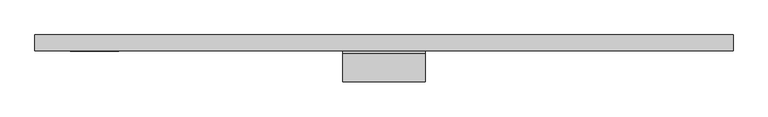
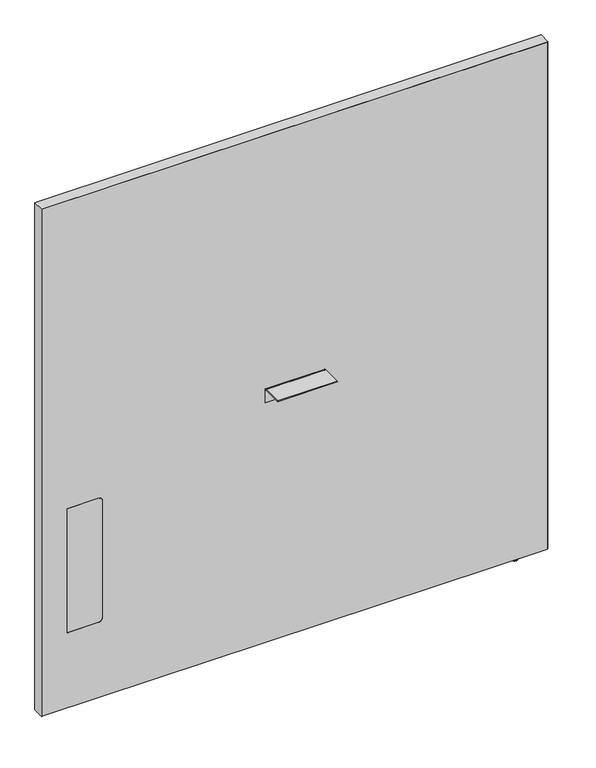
"""IFC4 building model written with IfcOpenShell, lengths in millimetres: furniture geometry, Steelcase - Answer Solution - Boundary Screen - Straight - Single Sided : 54H x 51W."""

import ifcopenshell
import ifcopenshell.guid

model = None  # the IFC model being written
_history = None  # IfcOwnerHistory: only IFC2X3 demands one
_inside = {}  # id of a spatial element -> (the spatial element, [elements in it])
_under = {}  # id of a project, library or spatial element -> (it, [spatial elements below it])
_declared = {}  # id of a project -> (the project, [libraries it declares])
_typed = {}  # id of a type object -> (the type object, [elements of that type])
_made_of = {}  # id of a material, layer set ... -> (it, [elements and type objects made of it])


def new_model(schema):
    """Start an empty IFC model of exactly this schema.

    Asked for "IFC4X3", IfcOpenShell would pick the latest addendum, in which some entities
    have other attributes; the version numbers below select the first issue.
    IFC2X3 requires an IfcOwnerHistory on every rooted entity: one is made here for all.
    """
    global model, _history
    if schema == "IFC4X3":
        model = ifcopenshell.file(schema_version=(4, 3, 0, 0))
    else:
        model = ifcopenshell.file(schema=schema)
    _inside.clear()
    _under.clear()
    _declared.clear()
    _typed.clear()
    _made_of.clear()
    _history = None
    if model.schema == "IFC2X3":
        org = make("IfcOrganization", Name="unknown")
        user = make(
            "IfcPersonAndOrganization",
            ThePerson=make("IfcPerson", FamilyName="unknown"),
            TheOrganization=org,
        )
        app = make(
            "IfcApplication",
            ApplicationDeveloper=org,
            Version="unknown",
            ApplicationFullName="unknown",
            ApplicationIdentifier="unknown",
        )
        _history = make(
            "IfcOwnerHistory",
            OwningUser=user,
            OwningApplication=app,
            ChangeAction="ADDED",
            CreationDate=0,
        )
    return model


def make(cls, **values):
    """One entity of the class cls with the attributes given. An attribute that is None is left unset."""
    return model.create_entity(
        cls, **{name: value for name, value in values.items() if value is not None}
    )


def rooted(cls, **values):
    """An entity with a GlobalId (a new one), such as an element, a storey or a relation."""
    return make(cls, GlobalId=ifcopenshell.guid.new(), OwnerHistory=_history, **values)


def si_unit(unit_type, name, prefix=None):
    """IfcSIUnit, for example si_unit("LENGTHUNIT", "METRE", prefix="MILLI")."""
    return make("IfcSIUnit", UnitType=unit_type, Prefix=prefix, Name=name)


def assignment(units):
    """IfcUnitAssignment: the units of a project."""
    return None if units is None else make("IfcUnitAssignment", Units=units)


def point(xyz):
    """IfcCartesianPoint."""
    return None if xyz is None else make("IfcCartesianPoint", Coordinates=xyz)


def direction(xyz):
    """IfcDirection."""
    return None if xyz is None else make("IfcDirection", DirectionRatios=xyz)


def frame(location, z_axis=None, x_axis=None):
    """IfcAxis2Placement3D, a coordinate frame: its origin and axes. An axis left out is left unset."""
    return make(
        "IfcAxis2Placement3D",
        Location=point(location),
        Axis=direction(z_axis),
        RefDirection=direction(x_axis),
    )


def frame_2d(location, x_axis=None):
    """IfcAxis2Placement2D, a coordinate frame in the plane: its origin and x axis."""
    return make(
        "IfcAxis2Placement2D", Location=point(location), RefDirection=direction(x_axis)
    )


def origin():
    """The frame at (0, 0, 0) with its axes left unset."""
    return frame((0.0, 0.0, 0.0))


def place(relative_to, where):
    """IfcLocalPlacement: puts the frame where relative to a parent placement (None: the world)."""
    return make(
        "IfcLocalPlacement", PlacementRelTo=relative_to, RelativePlacement=where
    )


def context(
    kind, dimensions, precision=None, world=None, true_north=None, identifier=None
):
    """IfcGeometricRepresentationContext, for example the 3D "Model" context."""
    return make(
        "IfcGeometricRepresentationContext",
        ContextIdentifier=identifier,
        ContextType=kind,
        CoordinateSpaceDimension=dimensions,
        Precision=precision,
        WorldCoordinateSystem=world,
        TrueNorth=true_north,
    )


def project(units=None, contexts=None):
    """IfcProject with its units and contexts."""
    return rooted(
        "IfcProject",
        Name="project",
        RepresentationContexts=contexts,
        UnitsInContext=assignment(units),
    )


def spatial(cls, under=None, at=None, **own):
    """A site, building, storey or space (cls), placed at a placement, below another one or the project."""
    s = rooted(cls, ObjectPlacement=at, **own)
    if under is not None:
        _under.setdefault(under.id(), (under, []))[1].append(s)
    return s


def polyline(points):
    """IfcPolyline through the points."""
    return make("IfcPolyline", Points=[point(p) for p in points])


def circle_curve(where, radius):
    """IfcCircle in the frame where."""
    return make("IfcCircle", Position=where, Radius=radius)


def ellipse_curve(where, semi_axis1, semi_axis2):
    """IfcEllipse in the frame where."""
    return make(
        "IfcEllipse", Position=where, SemiAxis1=semi_axis1, SemiAxis2=semi_axis2
    )


def trimmed(basis, trim1, trim2, sense, master):
    """IfcTrimmedCurve: the piece of a basis curve between two trims."""
    return make(
        "IfcTrimmedCurve",
        BasisCurve=basis,
        Trim1=trim1,
        Trim2=trim2,
        SenseAgreement=sense,
        MasterRepresentation=master,
    )


def segment(curve, same_sense, transition):
    """IfcCompositeCurveSegment."""
    return make(
        "IfcCompositeCurveSegment",
        Transition=transition,
        SameSense=same_sense,
        ParentCurve=curve,
    )


def composite_curve(segments, self_intersect=None):
    """IfcCompositeCurve: segments joined end to end."""
    return make("IfcCompositeCurve", Segments=segments, SelfIntersect=self_intersect)


def outline(outer, holes=None, kind="AREA"):
    """IfcArbitraryClosedProfileDef: a profile drawn as a closed curve; with holes, ...WithVoids."""
    if holes is None:
        return make("IfcArbitraryClosedProfileDef", ProfileType=kind, OuterCurve=outer)
    return make(
        "IfcArbitraryProfileDefWithVoids",
        ProfileType=kind,
        OuterCurve=outer,
        InnerCurves=holes,
    )


def extrude(swept, where, along, depth):
    """IfcExtrudedAreaSolid: the profile swept, set in the frame where, extruded along a direction by depth."""
    return make(
        "IfcExtrudedAreaSolid",
        SweptArea=swept,
        Position=where,
        ExtrudedDirection=direction(along),
        Depth=depth,
    )


def shape(context_of_items, identifier, shape_type, items):
    """IfcShapeRepresentation: the items that make up one representation, for example the "Body"."""
    return make(
        "IfcShapeRepresentation",
        ContextOfItems=context_of_items,
        RepresentationIdentifier=identifier,
        RepresentationType=shape_type,
        Items=items,
    )


def source(mapping_origin, context_of_items, identifier, shape_type, items):
    """IfcRepresentationMap: a shape defined once, which mapped items show again and again."""
    return make(
        "IfcRepresentationMap",
        MappingOrigin=mapping_origin,
        MappedRepresentation=shape(context_of_items, identifier, shape_type, items),
    )


def transform(
    local_origin,
    x_axis=None,
    y_axis=None,
    z_axis=None,
    scale=None,
    scale2=None,
    scale3=None,
    uniform=True,
):
    """IfcCartesianTransformationOperator3D, or its non-uniform kind. x_axis, y_axis, z_axis: its Axis1, 2, 3."""
    if uniform:
        return make(
            "IfcCartesianTransformationOperator3D",
            Axis1=direction(x_axis),
            Axis2=direction(y_axis),
            LocalOrigin=point(local_origin),
            Scale=scale,
            Axis3=direction(z_axis),
        )
    return make(
        "IfcCartesianTransformationOperator3DnonUniform",
        Axis1=direction(x_axis),
        Axis2=direction(y_axis),
        LocalOrigin=point(local_origin),
        Scale=scale,
        Axis3=direction(z_axis),
        Scale2=scale2,
        Scale3=scale3,
    )


def mapped(mapping_source, mapping_target):
    """IfcMappedItem: shows the shape of a source again, moved by a transform."""
    return make(
        "IfcMappedItem", MappingSource=mapping_source, MappingTarget=mapping_target
    )


def made_of(thing, what):
    """Note that an element or type object is made of a material, layer set ...; save() writes the relation."""
    if what is not None:
        _made_of.setdefault(what.id(), (what, []))[1].append(thing)
    return thing


def element(
    cls,
    number,
    at=None,
    inside=None,
    cuts=None,
    type_object=None,
    material=None,
    context=None,
    identifier="Body",
    shape_type=None,
    held_by="IfcProductDefinitionShape",
    body=None,
    shapes=None,
    **own,
):
    """One element of the class cls, such as IfcWall. Its Tag is "e" and its number.

    at: its placement. inside: the storey or other place that contains it. cuts: it is an
    opening in that element (IfcRelVoidsElement). A single representation is given by context,
    identifier, shape_type and body (its items); several are given by shapes. held_by: the class
    of the entity that holds the representations. save() writes the other relations.
    """
    e = rooted(cls, Tag="e%d" % number, ObjectPlacement=at, **own)
    if body is not None:
        shapes = [shape(context, identifier, shape_type, body)]
    if shapes is not None:
        e.Representation = make(held_by, Representations=shapes)
    if inside is not None:
        _inside.setdefault(inside.id(), (inside, []))[1].append(e)
    if cuts is not None:
        rooted(
            "IfcRelVoidsElement", RelatingBuildingElement=cuts, RelatedOpeningElement=e
        )
    if type_object is not None:
        _typed.setdefault(type_object.id(), (type_object, []))[1].append(e)
    return made_of(e, material)


def aggregate(whole, parts):
    """IfcRelAggregates: a whole, such as a stair, and the parts it consists of."""
    return rooted("IfcRelAggregates", RelatingObject=whole, RelatedObjects=parts)


def save(model, path):
    """Write the relations noted so far, then the file.

    IfcRelAggregates (storeys below a building ...), IfcRelContainedInSpatialStructure (elements
    in a storey), IfcRelDefinesByType, IfcRelAssociatesMaterial and IfcRelDeclares: one each for
    every whole, place, type object, material and project.
    """
    for whole, parts in _under.values():
        aggregate(whole, parts)
    for where, things in _inside.values():
        rooted(
            "IfcRelContainedInSpatialStructure",
            RelatedElements=things,
            RelatingStructure=where,
        )
    for kind, things in _typed.values():
        rooted("IfcRelDefinesByType", RelatedObjects=things, RelatingType=kind)
    for what, things in _made_of.values():
        rooted("IfcRelAssociatesMaterial", RelatedObjects=things, RelatingMaterial=what)
    for by, libraries in _declared.values():
        rooted("IfcRelDeclares", RelatingContext=by, RelatedDefinitions=libraries)
    model.write(path)


def plane_surface(at):
    """IfcPlane: the flat surface through the origin of the frame at, square to its z axis."""
    return make("IfcPlane", Position=at)


def cylinder_surface(at, radius):
    """IfcCylindricalSurface: all points at the distance radius from the z axis of the frame at."""
    return make("IfcCylindricalSurface", Position=at, Radius=radius)


def revolved_surface(curve, axis_point, axis_direction):
    """IfcSurfaceOfRevolution: the curve turned about the line through axis_point along axis_direction."""
    return make(
        "IfcSurfaceOfRevolution",
        SweptCurve=make("IfcArbitraryOpenProfileDef", ProfileType="CURVE", Curve=curve),
        AxisPosition=make("IfcAxis1Placement", Location=point(axis_point), Axis=direction(axis_direction)),
    )


def advanced_brep(points, edges, surfaces, faces):
    """IfcAdvancedBrep: a solid bounded by faces that lie on surfaces and meet in shared edges.

    An edge is (start, end): straight between two places in points (the first is 0);
    or (start, end, curve); or (start, end, curve, False) where it runs against its curve.
    A face is (place in surfaces, loops), or (place, loops, False) where it looks against
    its surface's normal. A loop lists edges by number (the first is 1), with a minus sign
    where the edge is run from its end to its start. The first loop is the outer one.
    """
    corners = [point(p) for p in points]
    vertices = [make("IfcVertexPoint", VertexGeometry=c) for c in corners]
    made = []
    for start, end, *more in edges:
        made.append(
            make(
                "IfcEdgeCurve",
                EdgeStart=vertices[start],
                EdgeEnd=vertices[end],
                EdgeGeometry=more[0] if more else make("IfcPolyline", Points=[corners[start], corners[end]]),
                SameSense=more[1] if len(more) > 1 else True,
            )
        )
    hull = []
    for where, loops, *sense in faces:
        bounds = []
        for j, loop in enumerate(loops):
            ring = [make("IfcOrientedEdge", EdgeElement=made[abs(k) - 1], Orientation=k > 0) for k in loop]
            bounds.append(
                make(
                    "IfcFaceOuterBound" if j == 0 else "IfcFaceBound",
                    Bound=make("IfcEdgeLoop", EdgeList=ring),
                    Orientation=True,
                )
            )
        hull.append(make("IfcAdvancedFace", Bounds=bounds, FaceSurface=surfaces[where], SameSense=sense[0] if sense else True))
    return make("IfcAdvancedBrep", Outer=make("IfcClosedShell", CfsFaces=hull))


def furniture_a9927840(model_context):
    return source(origin(), model_context, "Body", "SolidModel", [
        extrude(outline(composite_curve([segment(polyline([(-86.8398151, 696.4680019), (-86.8398151, 698.5), (-34.9450855, 698.5)]), True, "CONTINUOUS"), segment(trimmed(circle_curve(frame_2d((-34.9450855, 693.2447477)), 5.2552523), [point((-34.9450855, 698.5))], [point((-29.6898332, 693.2447477))], False, "CARTESIAN"), True, "CONTINUOUS"), segment(polyline([(-29.6898332, 693.2447477), (-29.6898332, 660.4), (-31.7218162, 660.4), (-31.7218162, 693.0058743)]), True, "CONTINUOUS"), segment(trimmed(circle_curve(frame_2d((-35.1839438, 693.0058743)), 3.4621276), [point((-31.7218162, 693.0058743))], [point((-35.1839438, 696.4680019))], True, "CARTESIAN"), True, "CONTINUOUS"), segment(polyline([(-35.1839438, 696.4680019), (-86.8398151, 696.4680019)]), True, "CONTINUOUS")], self_intersect=False)), frame((-74.9808593, 0.0, 0.0), z_axis=(1.0, 0.0, 0.0), x_axis=(0.0, 1.0, 0.0)), (0.0, 0.0, 1.0), 152.4000969),
        advanced_brep(
        [(571.7286488, -23.7588726, 9.9059849), (571.7286488, -5.9309607, 9.9059849), (571.7286488, -14.8449166, 9.9059849), (571.7286488, -23.7588726, 2.9673238), (571.7286488, -5.9309607, 2.9673238), (571.7286488, -22.7915354, 2.9673238), (571.7286488, -6.8982978, 2.9673238), (571.7286488, -22.7915354, 1.6569081), (571.7286488, -6.8982978, 1.6569081), (571.7286488, -21.1346274, 0.0), (571.7286488, -8.5552059, 0.0), (571.7286488, -14.8449166, 0.0)],
        [
            (0, 1, circle_curve(frame((571.7286488, -14.8449166, 9.9059849), z_axis=(0.0, 0.0, 1.0), x_axis=(0.0, 1.0, 0.0)), 8.913956)),
            (1, 2),
            (2, 0),
            (1, 0, circle_curve(frame((571.7286488, -14.8449166, 9.9059849), z_axis=(0.0, 0.0, 1.0), x_axis=(0.0, 1.0, 0.0)), 8.913956)),
            (3, 4, circle_curve(frame((571.7286488, -14.8449166, 2.9673238), z_axis=(0.0, 0.0, 1.0), x_axis=(0.0, 1.0, 0.0)), 8.913956)),
            (4, 1),
            (0, 3),
            (4, 3, circle_curve(frame((571.7286488, -14.8449166, 2.9673238), z_axis=(0.0, 0.0, 1.0), x_axis=(0.0, 1.0, 0.0)), 8.913956)),
            (5, 6, circle_curve(frame((571.7286488, -14.8449166, 2.9673238), z_axis=(0.0, 0.0, 1.0), x_axis=(0.0, 1.0, 0.0)), 7.9466188)),
            (6, 4),
            (3, 5),
            (6, 5, circle_curve(frame((571.7286488, -14.8449166, 2.9673238), z_axis=(0.0, 0.0, 1.0), x_axis=(0.0, 1.0, 0.0)), 7.9466188)),
            (7, 8, circle_curve(frame((571.7286488, -14.8449166, 1.6569081), z_axis=(0.0, 0.0, 1.0), x_axis=(0.0, 1.0, 0.0)), 7.9466188)),
            (8, 6),
            (5, 7),
            (8, 7, circle_curve(frame((571.7286488, -14.8449166, 1.6569081), z_axis=(0.0, 0.0, 1.0), x_axis=(0.0, 1.0, 0.0)), 7.9466188)),
            (9, 10, circle_curve(frame((571.7286488, -14.8449166, 0.0), z_axis=(0.0, 0.0, 1.0), x_axis=(0.0, 1.0, 0.0)), 6.2897107)),
            (10, 8, circle_curve(frame((571.7286488, -8.5552059, 1.6569081), z_axis=(1.0, 0.0, 0.0), x_axis=(0.0, 1.0, 0.0)), 1.6569081)),
            (7, 9, circle_curve(frame((571.7286488, -21.1346274, 1.6569081), z_axis=(1.0, 0.0, 0.0), x_axis=(0.0, -1.0, 0.0)), 1.6569081)),
            (10, 9, circle_curve(frame((571.7286488, -14.8449166, 0.0), z_axis=(0.0, 0.0, 1.0), x_axis=(0.0, 1.0, 0.0)), 6.2897107)),
            (11, 10),
            (9, 11),
        ],
        [
            plane_surface(frame((571.7286488, -14.8449166, 9.9059849), z_axis=(0.0, 0.0, 1.0), x_axis=(0.0, 1.0, 0.0))),
            cylinder_surface(frame((571.7286488, -14.8449166, 9.9059849), z_axis=(0.0, 0.0, -1.0), x_axis=(0.0, 1.0, 0.0)), 8.913956),
            plane_surface(frame((571.7286488, -14.8449166, 2.9673238), z_axis=(0.0, 0.0, -1.0), x_axis=(0.0, 1.0, 0.0))),
            cylinder_surface(frame((571.7286488, -14.8449166, 9.9059849), z_axis=(0.0, 0.0, -1.0), x_axis=(0.0, 1.0, 0.0)), 7.9466188),
            revolved_surface(trimmed(ellipse_curve(frame((571.7286488, -8.5552059, 1.6569081), z_axis=(-1.0, 0.0, 0.0), x_axis=(0.0, 1.0, 0.0)), 1.6569081, 1.6569081), [point((571.7286488, -6.8982978, 1.6569081))], [point((571.7286488, -8.5552059, 0.0))], True, "CARTESIAN"), (571.7286488, -14.8449166, 9.9059849), (0.0, 0.0, -1.0)),
            plane_surface(frame((571.7286488, -14.8449166, 0.0), z_axis=(0.0, 0.0, -1.0), x_axis=(0.0, 1.0, 0.0))),
        ],
        [
            (0, [[1, 2, 3]]),
            (0, [[4, -3, -2]]),
            (1, [[5, 6, -1, 7]]),
            (1, [[8, -7, -4, -6]]),
            (2, [[9, 10, -5, 11]]),
            (2, [[12, -11, -8, -10]]),
            (3, [[13, 14, -9, 15]]),
            (3, [[16, -15, -12, -14]]),
            (4, [[17, 18, -13, 19]]),
            (4, [[20, -19, -16, -18]]),
            (5, [[21, -17, 22]]),
            (5, [[-22, -20, -21]]),
        ],
    ),
        advanced_brep(
        [(647.8780168, 0.0, 1381.542118), (647.8780168, 0.0, 9.9059849), (-645.4902221, 0.0, 9.9059849), (-645.4902221, 0.0, 1381.542118), (647.8780168, -29.6898332, 1381.542118), (-645.4902221, -29.6898332, 1381.542118), (-645.4902221, -29.6898332, 9.9059849), (647.8780168, -29.6898332, 9.9059849), (-501.1463873, -29.6898332, 549.6162029), (-490.9863873, -29.6898332, 539.4562029), (-490.9863873, -29.6898332, 223.9362137), (-501.1463873, -29.6898332, 213.7762137), (-580.800285, -29.6898332, 213.7762137), (-580.800285, -29.6898332, 549.6162029), (-580.800285, -29.0550397, 549.6162029), (-501.1463873, -29.0550397, 549.6162029), (-580.800285, -29.0550397, 213.7762137), (-501.1463873, -29.0550397, 213.7762137), (-490.9863873, -29.0550397, 223.9362137), (-490.9863873, -29.0550397, 539.4562029)],
        [
            (0, 1),
            (1, 2),
            (2, 3),
            (3, 0),
            (4, 5),
            (5, 6),
            (6, 7),
            (7, 4),
            (8, 9, circle_curve(frame((-501.1463873, -29.6898332, 539.4562029), z_axis=(0.0, 1.0, 0.0), x_axis=(0.0, 0.0, 1.0)), 10.16)),
            (9, 10),
            (10, 11, circle_curve(frame((-501.1463873, -29.6898332, 223.9362137), z_axis=(0.0, 1.0, 0.0), x_axis=(0.0, 0.0, 1.0)), 10.16)),
            (11, 12),
            (12, 13),
            (13, 8),
            (0, 4),
            (7, 1),
            (6, 2),
            (5, 3),
            (13, 14),
            (14, 15),
            (15, 8),
            (12, 16),
            (16, 14),
            (11, 17),
            (17, 16),
            (10, 18),
            (18, 17, circle_curve(frame((-501.1463873, -29.0550397, 223.9362137), z_axis=(0.0, 1.0, 0.0), x_axis=(0.0, 0.0, 1.0)), 10.16)),
            (9, 19),
            (19, 18),
            (15, 19, circle_curve(frame((-501.1463873, -29.0550397, 539.4562029), z_axis=(0.0, 1.0, 0.0), x_axis=(0.0, 0.0, 1.0)), 10.16)),
        ],
        [
            plane_surface(frame((647.8780168, 0.0, 1381.542118), z_axis=(0.0, 1.0, 0.0), x_axis=(0.0, 0.0, -1.0))),
            plane_surface(frame((647.8780168, -29.6898332, 1381.542118), z_axis=(0.0, -1.0, 0.0), x_axis=(0.0, 0.0, 1.0))),
            plane_surface(frame((647.8780168, 0.0, 1381.542118), z_axis=(1.0, 0.0, 0.0), x_axis=(0.0, -1.0, 0.0))),
            plane_surface(frame((647.8780168, 0.0, 9.9059849), z_axis=(0.0, 0.0, -1.0), x_axis=(0.0, -1.0, 0.0))),
            plane_surface(frame((-645.4902221, 0.0, 9.9059849), z_axis=(-1.0, 0.0, 0.0), x_axis=(0.0, -1.0, 0.0))),
            plane_surface(frame((-645.4902221, 0.0, 1381.542118), z_axis=(0.0, 0.0, 1.0), x_axis=(0.0, -1.0, 0.0))),
            plane_surface(frame((-501.1463873, 0.0, 549.6162029), z_axis=(0.0, 0.0, -1.0), x_axis=(0.0, -1.0, 0.0))),
            plane_surface(frame((-580.800285, 0.0, 549.6162029), z_axis=(1.0, 0.0, 0.0), x_axis=(0.0, -1.0, 0.0))),
            plane_surface(frame((-580.800285, 0.0, 213.7762137), z_axis=(0.0, 0.0, 1.0), x_axis=(0.0, -1.0, 0.0))),
            revolved_surface(polyline([(-501.1463873, -29.6898332, 234.0962137), (-501.1463873, -29.0550397, 234.0962137)]), (-501.1463873, -29.6898332, 223.9362137), (0.0, -1.0, 0.0)),
            plane_surface(frame((-490.9863873, 0.0, 223.9362137), z_axis=(-1.0, 0.0, 0.0), x_axis=(0.0, -1.0, 0.0))),
            revolved_surface(polyline([(-501.1463873, -29.6898332, 549.6162029), (-501.1463873, -29.0550397, 549.6162029)]), (-501.1463873, -29.6898332, 539.4562029), (0.0, -1.0, 0.0)),
            plane_surface(frame((-490.9863873, -29.0550397, 629.172953), z_axis=(0.0, -1.0, 0.0), x_axis=(0.0, 0.0, 1.0))),
        ],
        [
            (0, [[1, 2, 3, 4]]),
            (1, [[5, 6, 7, 8], [9, 10, 11, 12, 13, 14]]),
            (2, [[-1, 15, -8, 16]]),
            (3, [[-2, -16, -7, 17]]),
            (4, [[-3, -17, -6, 18]]),
            (5, [[-4, -18, -5, -15]]),
            (6, [[-14, 19, 20, 21]]),
            (7, [[-13, 22, 23, -19]]),
            (8, [[-12, 24, 25, -22]]),
            (9, [[-11, 26, 27, -24]]),
            (10, [[-10, 28, 29, -26]]),
            (11, [[-9, -21, 30, -28]]),
            (12, [[-20, -23, -25, -27, -29, -30]]),
        ],
    ),
        extrude(outline(composite_curve([segment(polyline([(549.6162029, -501.1463873), (549.6162029, -580.800285), (213.7762137, -580.800285), (213.7762137, -501.1463873)]), True, "CONTINUOUS"), segment(trimmed(circle_curve(frame_2d((223.9362137, -501.1463873)), 10.16), [point((213.7762137, -501.1463873))], [point((223.9362137, -490.9863873))], False, "CARTESIAN"), True, "CONTINUOUS"), segment(polyline([(223.9362137, -490.9863873), (539.4562029, -490.9863873)]), True, "CONTINUOUS"), segment(trimmed(circle_curve(frame_2d((539.4562029, -501.1463873)), 10.16), [point((539.4562029, -490.9863873))], [point((549.6162029, -501.1463873))], False, "CARTESIAN"), True, "CONTINUOUS")], self_intersect=False)), frame((0.0, -29.6898332, 0.0), z_axis=(0.0, 1.0, 0.0), x_axis=(0.0, 0.0, 1.0)), (0.0, 0.0, 1.0), 0.6347935),
        extrude(outline(polyline([(1382.522, 648.9191891), (1382.522, -646.4808109), (9.9059849, -646.4808109), (9.9059849, -645.4902221), (1381.542118, -645.4902221), (1381.542118, 647.8780168), (9.9059849, 647.8780168), (9.9059849, 648.9191891), (1382.522, 648.9191891)])), frame((0.0, -29.6898332, 0.0), z_axis=(0.0, 1.0, 0.0), x_axis=(0.0, 0.0, 1.0)), (0.0, 0.0, 1.0), 29.6898332),
    ])


if __name__ == "__main__":
    model = new_model("IFC4")
    model_context = context("Model", 3, world=origin())
    ifc_project = project(units=[si_unit("LENGTHUNIT", "METRE", prefix="MILLI")], contexts=[model_context])
    site = spatial("IfcSite", under=ifc_project)
    building = spatial("IfcBuilding", under=site)
    placement = place(None, origin())
    furniture_shape = furniture_a9927840(model_context)
    element("IfcFurniture", 1, ObjectType="Steelcase - Answer Solution - Boundary Screen - Straight - Single Sided : 54H x 51W", at=placement, inside=building, context=model_context, shape_type="MappedRepresentation", body=[
        mapped(furniture_shape, transform((0.0, 0.0, 0.0), x_axis=(1.0, 0.0, 0.0), y_axis=(0.0, 1.0, 0.0), z_axis=(0.0, 0.0, 1.0))),
    ])
    save(model, "model.ifc")
